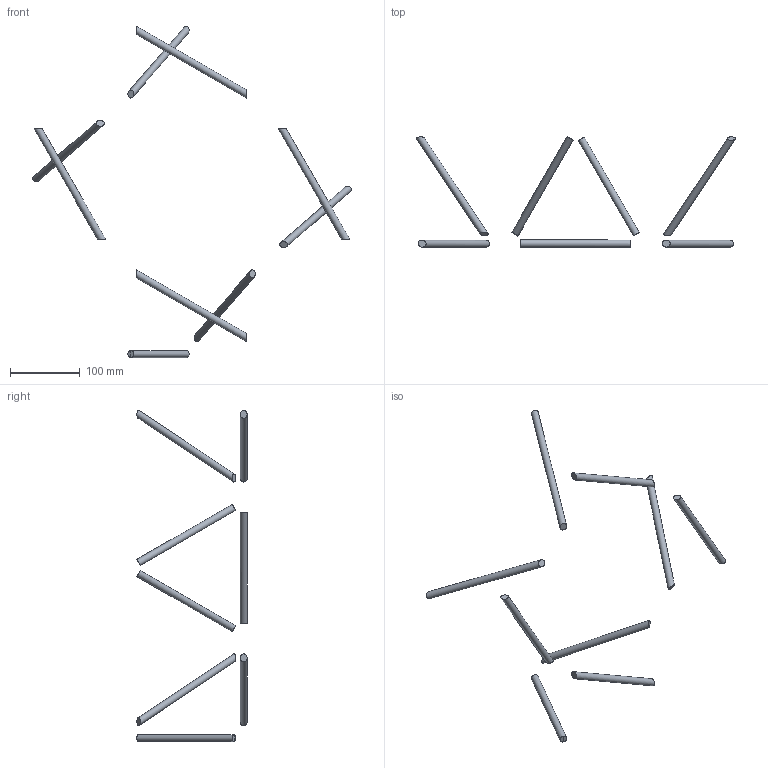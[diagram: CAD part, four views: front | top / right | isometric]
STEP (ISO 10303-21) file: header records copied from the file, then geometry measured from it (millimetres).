
FILE_DESCRIPTION(/* description */ (''),/* implementation_level */ '2;1');
FILE_NAME(/* name */ 'M:\Symbolen_NIEUW\STP\Corners\E20D\E20D-C016_260020137.stp',/* time_stamp */ '2017-11-16T16:27:23+01:00',/* author */ ('Kees'),/* organization */ (''),/* preprocessor_version */ 'ST-DEVELOPER v16.13',/* originating_system */ 'Autodesk Inventor 2018',/* authorisation */ '');
FILE_SCHEMA (('AUTOMOTIVE_DESIGN { 1 0 10303 214 3 1 1 }'));
Length unit declared in the file: millimetre
Products named in the file (1): 260020137
Bounding box: 457.01 x 158.19 x 474.99 mm (x, y, z)
Volume: 127014.6 mm3; surface area: 52414 mm2
Topology: 9 solids, 9 shells, 29 faces, 39 edges, 28 vertices
Faces by surface type: plane 20, cylinder 9
Full cylindrical faces by diameter (mm): 10 x9
Entity records: 607 total; most frequent: DIRECTION 102, CARTESIAN_POINT 72, AXIS2_PLACEMENT_3D 50, ORIENTED_EDGE 44, EDGE_LOOP 38, STYLED_ITEM 38, FACE_OUTER_BOUND 29, ADVANCED_FACE 29
